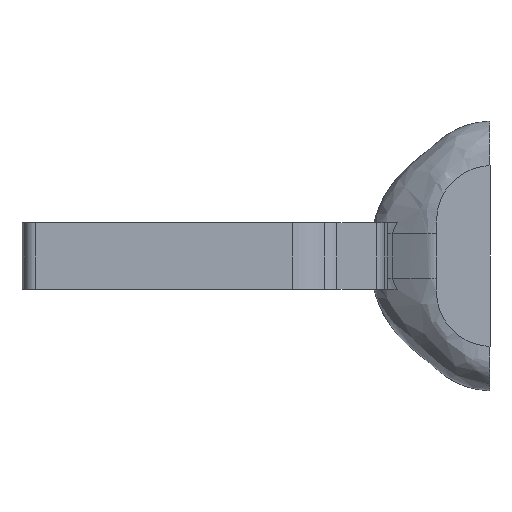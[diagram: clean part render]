
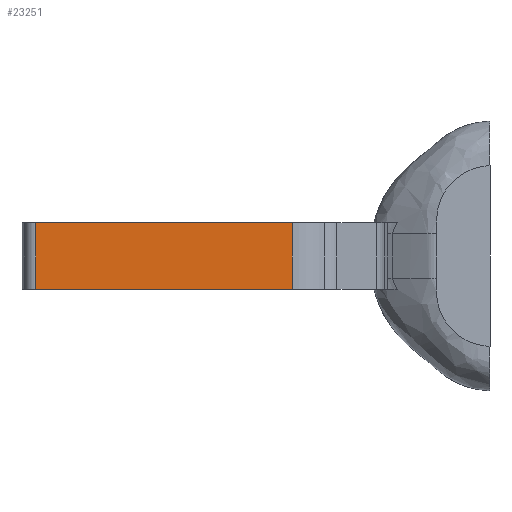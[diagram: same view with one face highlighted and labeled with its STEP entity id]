
A CAD part, front view. The second image highlights one B-rep face of the part: STEP entity #23251.
In plain terms, the highlighted planar face has unit normal (0, -1, 0).
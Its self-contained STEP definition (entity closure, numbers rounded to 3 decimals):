
#1763 = CARTESIAN_POINT ( 'NONE',  ( -175.64, -27.498, 15.005 ) ) ;
#3178 = CARTESIAN_POINT ( 'NONE',  ( -60.098, -27.498, 15.005 ) ) ;
#4081 = CARTESIAN_POINT ( 'NONE',  ( -175.64, -27.498, 2.002 ) ) ;
#4802 = CARTESIAN_POINT ( 'NONE',  ( -60.098, -27.498, 15.005 ) ) ;
#5824 = EDGE_CURVE ( 'NONE', #6654, #31842, #9244, .T. ) ;
#5876 = PLANE ( 'NONE',  #27899 ) ;
#6654 = VERTEX_POINT ( 'NONE', #1763 ) ;
#6742 = LINE ( 'NONE', #20646, #26726 ) ;
#6922 = DIRECTION ( 'NONE',  ( 0., 0., -1. ) ) ;
#7305 = DIRECTION ( 'NONE',  ( 0., 0., -1. ) ) ;
#7577 = ORIENTED_EDGE ( 'NONE', *, *, #32376, .T. ) ;
#8189 = DIRECTION ( 'NONE',  ( 0., -1., 0. ) ) ;
#9244 = LINE ( 'NONE', #4081, #34100 ) ;
#10144 = ORIENTED_EDGE ( 'NONE', *, *, #5824, .T. ) ;
#11807 = ORIENTED_EDGE ( 'NONE', *, *, #12041, .F. ) ;
#12041 = EDGE_CURVE ( 'NONE', #16355, #31842, #6742, .T. ) ;
#13448 = VECTOR ( 'NONE', #32420, 1000. ) ;
#14152 = EDGE_LOOP ( 'NONE', ( #10144, #11807, #19052, #7577 ) ) ;
#15118 = DIRECTION ( 'NONE',  ( -1., 0., 0. ) ) ;
#15186 = CARTESIAN_POINT ( 'NONE',  ( -175.64, -27.498, -14.995 ) ) ;
#16208 = FACE_OUTER_BOUND ( 'NONE', #14152, .T. ) ;
#16355 = VERTEX_POINT ( 'NONE', #19921 ) ;
#16738 = CARTESIAN_POINT ( 'NONE',  ( -60.098, -27.498, 2.002 ) ) ;
#19052 = ORIENTED_EDGE ( 'NONE', *, *, #22363, .F. ) ;
#19331 = VECTOR ( 'NONE', #7305, 1000. ) ;
#19921 = CARTESIAN_POINT ( 'NONE',  ( -60.098, -27.498, -14.995 ) ) ;
#20325 = CARTESIAN_POINT ( 'NONE',  ( -60.098, -27.498, 2.002 ) ) ;
#20646 = CARTESIAN_POINT ( 'NONE',  ( -60.098, -27.498, -14.995 ) ) ;
#22363 = EDGE_CURVE ( 'NONE', #31457, #16355, #34390, .T. ) ;
#23251 = ADVANCED_FACE ( 'NONE', ( #16208 ), #5876, .T. ) ;
#26726 = VECTOR ( 'NONE', #15118, 1000. ) ;
#27899 = AXIS2_PLACEMENT_3D ( 'NONE', #16738, #8189, #29757 ) ;
#29750 = LINE ( 'NONE', #3178, #13448 ) ;
#29757 = DIRECTION ( 'NONE',  ( -1., 0., 0. ) ) ;
#31457 = VERTEX_POINT ( 'NONE', #4802 ) ;
#31842 = VERTEX_POINT ( 'NONE', #15186 ) ;
#32376 = EDGE_CURVE ( 'NONE', #31457, #6654, #29750, .T. ) ;
#32420 = DIRECTION ( 'NONE',  ( -1., 0., 0. ) ) ;
#34100 = VECTOR ( 'NONE', #6922, 1000. ) ;
#34390 = LINE ( 'NONE', #20325, #19331 ) ;
